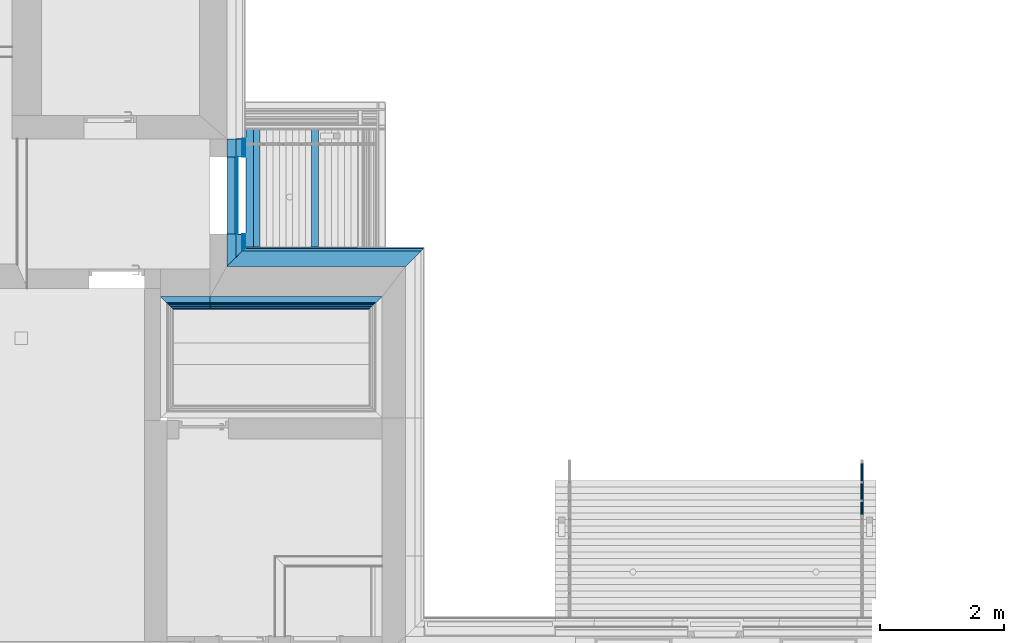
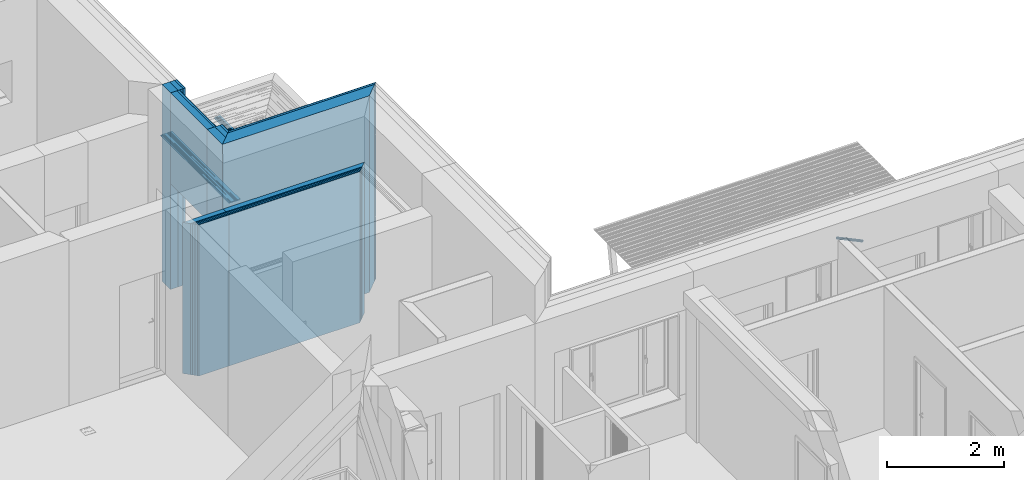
# One storey, part 36 of 418: 24 building element parts, 9 openings, 8 elements without a shape of their own.
"""IFC2X3 building model written with IfcOpenShell, lengths in millimetres."""

import ifcopenshell
import ifcopenshell.guid

model = None  # the IFC model being written
_history = None  # IfcOwnerHistory: only IFC2X3 demands one
_inside = {}  # id of a spatial element -> (the spatial element, [elements in it])
_under = {}  # id of a project, library or spatial element -> (it, [spatial elements below it])
_declared = {}  # id of a project -> (the project, [libraries it declares])
_typed = {}  # id of a type object -> (the type object, [elements of that type])
_made_of = {}  # id of a material, layer set ... -> (it, [elements and type objects made of it])


def new_model(schema):
    """Start an empty IFC model of exactly this schema.

    Asked for "IFC4X3", IfcOpenShell would pick the latest addendum, in which some entities
    have other attributes; the version numbers below select the first issue.
    IFC2X3 requires an IfcOwnerHistory on every rooted entity: one is made here for all.
    """
    global model, _history
    if schema == "IFC4X3":
        model = ifcopenshell.file(schema_version=(4, 3, 0, 0))
    else:
        model = ifcopenshell.file(schema=schema)
    _inside.clear()
    _under.clear()
    _declared.clear()
    _typed.clear()
    _made_of.clear()
    _history = None
    if model.schema == "IFC2X3":
        org = make("IfcOrganization", Name="unknown")
        user = make(
            "IfcPersonAndOrganization",
            ThePerson=make("IfcPerson", FamilyName="unknown"),
            TheOrganization=org,
        )
        app = make(
            "IfcApplication",
            ApplicationDeveloper=org,
            Version="unknown",
            ApplicationFullName="unknown",
            ApplicationIdentifier="unknown",
        )
        _history = make(
            "IfcOwnerHistory",
            OwningUser=user,
            OwningApplication=app,
            ChangeAction="ADDED",
            CreationDate=0,
        )
    return model


def make(cls, **values):
    """One entity of the class cls with the attributes given. An attribute that is None is left unset."""
    return model.create_entity(
        cls, **{name: value for name, value in values.items() if value is not None}
    )


def entity(cls, *values):
    """Any entity or typed value of the class cls, its attributes in the order of the schema. None: left unset."""
    e = model.create_entity(cls)
    for i, value in enumerate(values):
        if value is not None:
            e[i] = value
    return e


def rooted(cls, **values):
    """An entity with a GlobalId (a new one), such as an element, a storey or a relation."""
    return make(cls, GlobalId=ifcopenshell.guid.new(), OwnerHistory=_history, **values)


def si_unit(unit_type, name, prefix=None):
    """IfcSIUnit, for example si_unit("LENGTHUNIT", "METRE", prefix="MILLI")."""
    return make("IfcSIUnit", UnitType=unit_type, Prefix=prefix, Name=name)


def converted_unit(unit_type, name, factor, base, dimensions=None, offset=None):
    """IfcConversionBasedUnit, such as the inch: factor (a typed value) times the base unit."""
    return make(
        "IfcConversionBasedUnit"
        if offset is None
        else "IfcConversionBasedUnitWithOffset",
        ConversionOffset=offset,
        Dimensions=None
        if dimensions is None
        else entity("IfcDimensionalExponents", *dimensions),
        UnitType=unit_type,
        Name=name,
        ConversionFactor=make(
            "IfcMeasureWithUnit", ValueComponent=factor, UnitComponent=base
        ),
    )


def derived_unit(unit_type, elements):
    """IfcDerivedUnit: a product of units, each with its exponent."""
    return make(
        "IfcDerivedUnit",
        Elements=[
            make("IfcDerivedUnitElement", Unit=unit, Exponent=power)
            for unit, power in elements
        ],
        UnitType=unit_type,
    )


def money_unit(currency):
    """IfcMonetaryUnit."""
    return make("IfcMonetaryUnit", Currency=currency)


def assignment(units):
    """IfcUnitAssignment: the units of a project."""
    return None if units is None else make("IfcUnitAssignment", Units=units)


def point(xyz):
    """IfcCartesianPoint."""
    return None if xyz is None else make("IfcCartesianPoint", Coordinates=xyz)


def direction(xyz):
    """IfcDirection."""
    return None if xyz is None else make("IfcDirection", DirectionRatios=xyz)


def frame(location, z_axis=None, x_axis=None):
    """IfcAxis2Placement3D, a coordinate frame: its origin and axes. An axis left out is left unset."""
    return make(
        "IfcAxis2Placement3D",
        Location=point(location),
        Axis=direction(z_axis),
        RefDirection=direction(x_axis),
    )


def frame_2d(location, x_axis=None):
    """IfcAxis2Placement2D, a coordinate frame in the plane: its origin and x axis."""
    return make(
        "IfcAxis2Placement2D", Location=point(location), RefDirection=direction(x_axis)
    )


def origin_with_axes():
    """The frame at (0, 0, 0) with the z axis (0, 0, 1) and the x axis (1, 0, 0) written out."""
    return frame((0.0, 0.0, 0.0), z_axis=(0.0, 0.0, 1.0), x_axis=(1.0, 0.0, 0.0))


def origin_2d_with_axis():
    """The frame at (0, 0) in the plane with the x axis (1, 0) written out."""
    return frame_2d((0.0, 0.0), x_axis=(1.0, 0.0))


def place(relative_to, where):
    """IfcLocalPlacement: puts the frame where relative to a parent placement (None: the world)."""
    return make(
        "IfcLocalPlacement", PlacementRelTo=relative_to, RelativePlacement=where
    )


def context(
    kind, dimensions, precision=None, world=None, true_north=None, identifier=None
):
    """IfcGeometricRepresentationContext, for example the 3D "Model" context."""
    return make(
        "IfcGeometricRepresentationContext",
        ContextIdentifier=identifier,
        ContextType=kind,
        CoordinateSpaceDimension=dimensions,
        Precision=precision,
        WorldCoordinateSystem=world,
        TrueNorth=true_north,
    )


def subcontext(parent, identifier, kind, view, scale=None):
    """IfcGeometricRepresentationSubContext, for example "Body" below "Model"."""
    return make(
        "IfcGeometricRepresentationSubContext",
        ContextIdentifier=identifier,
        ContextType=kind,
        ParentContext=parent,
        TargetScale=scale,
        TargetView=view,
    )


def project(units=None, contexts=None):
    """IfcProject with its units and contexts."""
    return rooted(
        "IfcProject",
        Name="project",
        RepresentationContexts=contexts,
        UnitsInContext=assignment(units),
    )


def spatial(cls, under=None, at=None, **own):
    """A site, building, storey or space (cls), placed at a placement, below another one or the project."""
    s = rooted(cls, ObjectPlacement=at, **own)
    if under is not None:
        _under.setdefault(under.id(), (under, []))[1].append(s)
    return s


def polyline(points):
    """IfcPolyline through the points."""
    return make("IfcPolyline", Points=[point(p) for p in points])


def profile(cls, at=None, kind="AREA", **sizes):
    """A parametric profile (cls). Its sizes go by their IFC names, for example OverallWidth=200.0."""
    return make(cls, ProfileType=kind, Position=at, **sizes)


def rectangle(**sizes):
    """IfcRectangleProfileDef."""
    return profile("IfcRectangleProfileDef", **sizes)


def outline(outer, holes=None, kind="AREA"):
    """IfcArbitraryClosedProfileDef: a profile drawn as a closed curve; with holes, ...WithVoids."""
    if holes is None:
        return make("IfcArbitraryClosedProfileDef", ProfileType=kind, OuterCurve=outer)
    return make(
        "IfcArbitraryProfileDefWithVoids",
        ProfileType=kind,
        OuterCurve=outer,
        InnerCurves=holes,
    )


def extrude(swept, where, along, depth):
    """IfcExtrudedAreaSolid: the profile swept, set in the frame where, extruded along a direction by depth."""
    return make(
        "IfcExtrudedAreaSolid",
        SweptArea=swept,
        Position=where,
        ExtrudedDirection=direction(along),
        Depth=depth,
    )


def faces_of(points, faces, orient=None, outer=None):
    """IfcFace entities. A face is a list of loops; a loop is a list of indices into points, from 0.

    orient and outer hold one flag for each loop. By default every Orientation is true, the
    first loop of a face is its IfcFaceOuterBound and the others are IfcFaceBound.
    """
    made = []
    for i, loops in enumerate(faces):
        bounds = []
        for j, loop in enumerate(loops):
            is_outer = j == 0 if outer is None else outer[i][j]
            bounds.append(
                make(
                    "IfcFaceOuterBound" if is_outer else "IfcFaceBound",
                    Bound=make("IfcPolyLoop", Polygon=[points[k] for k in loop]),
                    Orientation=True if orient is None else orient[i][j],
                )
            )
        made.append(make("IfcFace", Bounds=bounds))
    return made


def faceted_brep(points, faces, orient=None, outer=None, voids=None):
    """IfcFacetedBrep: a solid bounded by flat faces; with voids (closed shells), ...WithVoids."""
    shared = [point(p) for p in points]
    hull = make("IfcClosedShell", CfsFaces=faces_of(shared, faces, orient, outer))
    if voids is None:
        return make("IfcFacetedBrep", Outer=hull)
    return make(
        "IfcFacetedBrepWithVoids",
        Outer=hull,
        Voids=[
            make(cls, CfsFaces=faces_of(shared, fs, o, b)) for cls, fs, o, b in voids
        ],
    )


def shape(context_of_items, identifier, shape_type, items):
    """IfcShapeRepresentation: the items that make up one representation, for example the "Body"."""
    return make(
        "IfcShapeRepresentation",
        ContextOfItems=context_of_items,
        RepresentationIdentifier=identifier,
        RepresentationType=shape_type,
        Items=items,
    )


def source(mapping_origin, context_of_items, identifier, shape_type, items):
    """IfcRepresentationMap: a shape defined once, which mapped items show again and again."""
    return make(
        "IfcRepresentationMap",
        MappingOrigin=mapping_origin,
        MappedRepresentation=shape(context_of_items, identifier, shape_type, items),
    )


def transform(
    local_origin,
    x_axis=None,
    y_axis=None,
    z_axis=None,
    scale=None,
    scale2=None,
    scale3=None,
    uniform=True,
):
    """IfcCartesianTransformationOperator3D, or its non-uniform kind. x_axis, y_axis, z_axis: its Axis1, 2, 3."""
    if uniform:
        return make(
            "IfcCartesianTransformationOperator3D",
            Axis1=direction(x_axis),
            Axis2=direction(y_axis),
            LocalOrigin=point(local_origin),
            Scale=scale,
            Axis3=direction(z_axis),
        )
    return make(
        "IfcCartesianTransformationOperator3DnonUniform",
        Axis1=direction(x_axis),
        Axis2=direction(y_axis),
        LocalOrigin=point(local_origin),
        Scale=scale,
        Axis3=direction(z_axis),
        Scale2=scale2,
        Scale3=scale3,
    )


def mapped(mapping_source, mapping_target):
    """IfcMappedItem: shows the shape of a source again, moved by a transform."""
    return make(
        "IfcMappedItem", MappingSource=mapping_source, MappingTarget=mapping_target
    )


def material(Name=None, Category=None):
    """IfcMaterial."""
    return make("IfcMaterial", Name=Name, Category=Category)


def made_of(thing, what):
    """Note that an element or type object is made of a material, layer set ...; save() writes the relation."""
    if what is not None:
        _made_of.setdefault(what.id(), (what, []))[1].append(thing)
    return thing


def type_object(cls, material=None, **own):
    """A type object (cls), such as IfcWallType, which elements share."""
    return made_of(rooted(cls, **own), material)


def element(
    cls,
    number,
    at=None,
    inside=None,
    cuts=None,
    type_object=None,
    material=None,
    context=None,
    identifier="Body",
    shape_type=None,
    held_by="IfcProductDefinitionShape",
    body=None,
    shapes=None,
    **own,
):
    """One element of the class cls, such as IfcWall. Its Tag is "e" and its number.

    at: its placement. inside: the storey or other place that contains it. cuts: it is an
    opening in that element (IfcRelVoidsElement). A single representation is given by context,
    identifier, shape_type and body (its items); several are given by shapes. held_by: the class
    of the entity that holds the representations. save() writes the other relations.
    """
    e = rooted(cls, Tag="e%d" % number, ObjectPlacement=at, **own)
    if body is not None:
        shapes = [shape(context, identifier, shape_type, body)]
    if shapes is not None:
        e.Representation = make(held_by, Representations=shapes)
    if inside is not None:
        _inside.setdefault(inside.id(), (inside, []))[1].append(e)
    if cuts is not None:
        rooted(
            "IfcRelVoidsElement", RelatingBuildingElement=cuts, RelatedOpeningElement=e
        )
    if type_object is not None:
        _typed.setdefault(type_object.id(), (type_object, []))[1].append(e)
    return made_of(e, material)


def aggregate(whole, parts):
    """IfcRelAggregates: a whole, such as a stair, and the parts it consists of."""
    return rooted("IfcRelAggregates", RelatingObject=whole, RelatedObjects=parts)


def save(model, path):
    """Write the relations noted so far, then the file.

    IfcRelAggregates (storeys below a building ...), IfcRelContainedInSpatialStructure (elements
    in a storey), IfcRelDefinesByType, IfcRelAssociatesMaterial and IfcRelDeclares: one each for
    every whole, place, type object, material and project.
    """
    for whole, parts in _under.values():
        aggregate(whole, parts)
    for where, things in _inside.values():
        rooted(
            "IfcRelContainedInSpatialStructure",
            RelatedElements=things,
            RelatingStructure=where,
        )
    for kind, things in _typed.values():
        rooted("IfcRelDefinesByType", RelatedObjects=things, RelatingType=kind)
    for what, things in _made_of.values():
        rooted("IfcRelAssociatesMaterial", RelatedObjects=things, RelatingMaterial=what)
    for by, libraries in _declared.values():
        rooted("IfcRelDeclares", RelatingContext=by, RelatedDefinitions=libraries)
    model.write(path)


model = new_model("IFC2X3")

# Units and contexts
model_context = context("Model", 3, precision=0.01, world=origin_with_axes(), true_north=direction((0.0, 1.0)))
body_context = subcontext(model_context, "Body", "Model", "MODEL_VIEW")
ifc_project = project(units=[si_unit("LENGTHUNIT", "METRE", prefix="MILLI"), si_unit("AREAUNIT", "SQUARE_METRE"), si_unit("VOLUMEUNIT", "CUBIC_METRE"), converted_unit("PLANEANGLEUNIT", "DEGREE", entity("IfcPlaneAngleMeasure", 0.0174532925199), si_unit("PLANEANGLEUNIT", "RADIAN"), dimensions=[0, 0, 0, 0, 0, 0, 0]), si_unit("SOLIDANGLEUNIT", "STERADIAN"), money_unit("EUR"), converted_unit("TIMEUNIT", "Year", entity("IfcTimeMeasure", 31556926.0), si_unit("TIMEUNIT", "SECOND"), dimensions=[0, 0, 1, 0, 0, 0, 0]), si_unit("MASSUNIT", "GRAM", prefix="KILO"), si_unit("THERMODYNAMICTEMPERATUREUNIT", "DEGREE_CELSIUS"), si_unit("LUMINOUSINTENSITYUNIT", "LUMEN"), si_unit("ENERGYUNIT", "JOULE", prefix="MEGA"), derived_unit("THERMALCONDUCTANCEUNIT", [(si_unit("POWERUNIT", "WATT"), 1), (si_unit("LENGTHUNIT", "METRE"), -1), (si_unit("THERMODYNAMICTEMPERATUREUNIT", "KELVIN"), -1)]), derived_unit("SPECIFICHEATCAPACITYUNIT", [(si_unit("ENERGYUNIT", "JOULE"), 1), (si_unit("MASSUNIT", "GRAM", prefix="KILO"), -1), (si_unit("THERMODYNAMICTEMPERATUREUNIT", "KELVIN"), -1)]), derived_unit("MASSDENSITYUNIT", [(si_unit("MASSUNIT", "GRAM", prefix="KILO"), 1), (si_unit("VOLUMEUNIT", "CUBIC_METRE"), -1)])], contexts=[model_context])

# Site, building, storey
site_placement = place(None, origin_with_axes())
site = spatial("IfcSite", under=ifc_project, at=site_placement, Name="Paldiski mnt 245/1, Tallinn, Harjumaa", CompositionType="COMPLEX")
building_placement = place(site_placement, origin_with_axes())
building = spatial("IfcBuilding", under=site, at=building_placement, Name="RKAS Hoone üldnimetus (kasutust iseloomustav) -> IFC Project Manager -> SOLIBRI", CompositionType="ELEMENT")
storey_placement = place(building_placement, origin_with_axes())
storey = spatial("IfcBuildingStorey", under=building, at=storey_placement, Name="Esimene korrus", CompositionType="ELEMENT", Elevation=0.0)

# Proxies, building element part
building_element_proxy_type_1 = type_object("IfcBuildingElementProxyType", Name="Railing Type", PredefinedType="NOTDEFINED")
proxy_1_placement = place(storey_placement, frame((-36811.0, 460.000000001, -500.846302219), z_axis=(0.0, 0.0, 1.0), x_axis=(1.0, 0.0, 0.0)))
proxy_1 = element("IfcBuildingElementProxy", 1, at=proxy_1_placement, inside=storey, type_object=building_element_proxy_type_1, Name="Trepipiire")
building_element_proxy_type_2 = type_object("IfcBuildingElementProxyType", Name="IfcBuildingElementProxy", PredefinedType="NOTDEFINED")
proxy_2_placement = place(proxy_1_placement, frame((0.0, 2144.92080789, 944.098300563), z_axis=(0.0, 0.0, 1.0), x_axis=(1.0, 0.0, 0.0)))
proxy_2 = element("IfcBuildingElementProxy", 2, at=proxy_2_placement, type_object=building_element_proxy_type_2, Name="ÜL PIIRE - 001")
aggregate(proxy_1, [proxy_2])
ifc_material_1 = material(Name="RAL7016")
shared_shape = source(origin_with_axes(), body_context, "Body", "Brep", [
    faceted_brep([(20.1885589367, 36.5444606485, 948.101991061), (20.5, 38.2216041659, 951.241939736), (20.5, 887.611065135, 497.556807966), (20.1885589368, 885.812724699, 494.481594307), (24.6201938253, 36.1763071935, 947.412734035), (25.0, 38.2216041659, 951.241939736), (24.6201938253, 40.2669011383, 955.071145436), (23.4923155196, 42.2500527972, 958.78400266), (21.6506350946, 44.1108020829, 962.267698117), (19.151111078, 45.79261107, 965.416381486), (16.0696902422, 47.2443788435, 968.134381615), (12.5, 48.4219941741, 970.339113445), (8.55050358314, 49.2896758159, 971.963587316), (4.34120444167, 49.8210597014, 972.95844441), (0.0, 50.0, 973.293456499), (-4.34120444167, 49.8210597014, 972.95844441), (-8.55050358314, 49.2896758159, 971.963587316), (-12.5, 48.4219941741, 970.339113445), (-16.0696902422, 47.2443788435, 968.134381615), (-19.151111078, 45.79261107, 965.416381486), (-21.6506350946, 44.1108020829, 962.267698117), (-23.4923155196, 42.2500527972, 958.78400266), (-24.6201938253, 40.2669011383, 955.071145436), (-25.0, 38.2216041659, 951.241939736), (-24.6201938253, 36.1763071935, 947.412734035), (-23.4923155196, 34.1931555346, 943.699876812), (-21.6506350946, 32.3324062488, 940.216181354), (-19.151111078, 30.6505972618, 937.067497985), (-16.0696902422, 29.1988294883, 934.349497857), (-12.5, 28.0212141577, 932.144766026), (-8.55050358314, 27.1535325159, 930.520292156), (-4.34120444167, 26.6221486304, 929.525435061), (0.0, 26.4432083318, 929.190422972), (4.34120444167, 26.6221486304, 929.525435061), (8.55050358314, 27.1535325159, 930.520292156), (12.5, 28.0212141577, 932.144766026), (16.0696902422, 29.1988294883, 934.349497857), (19.151111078, 30.6505972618, 937.067497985), (21.6506350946, 32.3324062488, 940.216181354), (23.4923155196, 34.1931555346, 943.699876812), (20.1885589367, 39.8987476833, 954.38188841), (19.2636987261, 34.9182762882, 945.057448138), (17.7535207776, 33.3924618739, 942.200817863), (15.7039110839, 32.0133785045, 939.6188975), (13.1771459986, 30.8229289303, 937.390137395), (10.25, 29.8572843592, 935.582257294), (7.01141293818, 29.1457854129, 934.25018872), (3.55978764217, 28.7100506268, 933.434405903), (0.0, 28.5633195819, 933.159695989), (-3.55978764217, 28.7100506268, 933.434405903), (-7.01141293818, 29.1457854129, 934.25018872), (-10.25, 29.8572843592, 935.582257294), (-13.1771459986, 30.8229289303, 937.390137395), (-15.7039110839, 32.0133785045, 939.6188975), (-17.7535207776, 33.3924618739, 942.200817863), (-19.2636987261, 34.9182762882, 945.057448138), (-20.1885589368, 36.5444606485, 948.101991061), (-20.5, 38.2216041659, 951.241939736), (-20.1885589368, 39.8987476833, 954.38188841), (-19.2636987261, 41.5249320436, 957.426431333), (-17.7535207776, 43.0507464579, 960.283061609), (-15.7039110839, 44.4298298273, 962.864981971), (-13.1771459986, 45.6202794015, 965.093742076), (-10.25, 46.5859239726, 966.901622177), (-7.01141293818, 47.2974229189, 968.233690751), (-3.55978764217, 47.733157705, 969.049473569), (0.0, 47.8798887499, 969.324183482), (3.55978764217, 47.733157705, 969.049473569), (7.01141293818, 47.2974229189, 968.233690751), (10.25, 46.5859239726, 966.901622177), (13.1771459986, 45.6202794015, 965.093742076), (15.7039110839, 44.4298298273, 962.864981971), (17.7535207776, 43.0507464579, 960.283061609), (19.2636987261, 41.5249320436, 957.426431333), (20.1885589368, 889.409405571, 500.632021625), (-21.6506350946, 881.296290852, 486.758363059), (-23.4923155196, 883.291505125, 490.170236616), (-24.6201938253, 885.417967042, 493.806547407), (-25.0, 887.611065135, 497.556807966), (-24.6201938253, 889.804163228, 501.307068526), (-23.4923155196, 891.930625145, 504.943379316), (-21.6506350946, 893.925839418, 508.355252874), (-19.1511110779, 895.729182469, 511.439021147), (-16.0696902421, 897.285860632, 514.100985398), (-12.5, 898.548575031, 516.260263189), (-8.55050358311, 899.478958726, 517.851245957), (-4.34120444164, 900.048742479, 518.825592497), (0.0, 900.2406137, 519.153697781), (4.3412044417, 900.048742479, 518.825592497), (8.55050358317, 899.478958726, 517.851245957), (12.5, 898.548575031, 516.260263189), (16.0696902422, 897.285860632, 514.100985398), (19.151111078, 895.729182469, 511.439021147), (21.6506350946, 893.925839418, 508.355252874), (23.4923155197, 891.930625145, 504.943379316), (24.6201938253, 889.804163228, 501.307068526), (25.0, 887.611065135, 497.556807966), (24.6201938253, 885.417967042, 493.806547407), (23.4923155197, 883.291505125, 490.170236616), (21.6506350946, 881.296290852, 486.758363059), (19.151111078, 879.492947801, 483.674594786), (16.0696902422, 877.936269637, 481.012630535), (12.5, 876.673555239, 478.853352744), (8.55050358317, 875.743171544, 477.262369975), (4.3412044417, 875.173387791, 476.288023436), (0.0, 874.98151657, 475.959918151), (-4.34120444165, 875.173387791, 476.288023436), (-8.55050358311, 875.743171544, 477.262369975), (-12.5, 876.673555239, 478.853352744), (-16.0696902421, 877.936269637, 481.012630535), (-19.1511110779, 879.492947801, 483.674594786), (-17.7535207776, 892.789180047, 506.41153279), (-19.2636987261, 891.153104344, 503.613796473), (-20.1885589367, 889.409405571, 500.632021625), (-20.5, 887.611065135, 497.556807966), (-20.1885589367, 885.812724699, 494.481594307), (-19.2636987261, 884.069025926, 491.499819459), (-17.7535207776, 882.432950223, 488.702083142), (-15.7039110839, 880.954208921, 486.173393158), (-13.1771459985, 879.677732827, 483.990582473), (-10.25, 878.64230702, 482.219974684), (-7.01141293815, 877.879392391, 480.915368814), (-3.55978764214, 877.412169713, 480.116404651), (0.0, 877.254835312, 479.847358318), (3.5597876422, 877.412169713, 480.116404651), (7.0114129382, 877.879392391, 480.915368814), (10.25, 878.64230702, 482.219974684), (13.1771459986, 879.677732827, 483.990582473), (15.703911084, 880.954208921, 486.173393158), (17.7535207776, 882.432950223, 488.702083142), (19.2636987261, 884.069025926, 491.499819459), (19.2636987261, 891.153104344, 503.613796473), (17.7535207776, 892.789180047, 506.41153279), (15.703911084, 894.267921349, 508.940222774), (13.1771459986, 895.544397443, 511.12303346), (10.25, 896.57982325, 512.893641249), (7.0114129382, 897.342737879, 514.198247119), (3.5597876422, 897.809960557, 514.997211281), (0.0, 897.967294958, 515.266257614), (-3.55978764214, 897.809960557, 514.997211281), (-7.01141293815, 897.342737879, 514.198247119), (-10.25, 896.57982325, 512.893641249), (-13.1771459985, 895.544397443, 511.12303346), (-15.7039110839, 894.267921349, 508.940222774)], [[[0, 1, 2, 3]], [[4, 5, 6, 7, 8, 9, 10, 11, 12, 13, 14, 15, 16, 17, 18, 19, 20, 21, 22, 23, 24, 25, 26, 27, 28, 29, 30, 31, 32, 33, 34, 35, 36, 37, 38, 39], [40, 1, 0, 41, 42, 43, 44, 45, 46, 47, 48, 49, 50, 51, 52, 53, 54, 55, 56, 57, 58, 59, 60, 61, 62, 63, 64, 65, 66, 67, 68, 69, 70, 71, 72, 73]], [[1, 40, 74, 2]], [[75, 76, 77, 78, 79, 80, 81, 82, 83, 84, 85, 86, 87, 88, 89, 90, 91, 92, 93, 94, 95, 96, 97, 98, 99, 100, 101, 102, 103, 104, 105, 106, 107, 108, 109, 110], [111, 112, 113, 114, 115, 116, 117, 118, 119, 120, 121, 122, 123, 124, 125, 126, 127, 128, 129, 130, 3, 2, 74, 131, 132, 133, 134, 135, 136, 137, 138, 139, 140, 141, 142, 143]], [[41, 0, 3, 130]], [[5, 4, 97, 96]], [[6, 5, 96, 95]], [[7, 6, 95, 94]], [[8, 7, 94, 93]], [[9, 8, 93, 92]], [[10, 9, 92, 91]], [[11, 10, 91, 90]], [[12, 11, 90, 89]], [[13, 12, 89, 88]], [[14, 13, 88, 87]], [[15, 14, 87, 86]], [[16, 15, 86, 85]], [[17, 16, 85, 84]], [[18, 17, 84, 83]], [[19, 18, 83, 82]], [[20, 19, 82, 81]], [[21, 20, 81, 80]], [[22, 21, 80, 79]], [[23, 22, 79, 78]], [[24, 23, 78, 77]], [[25, 24, 77, 76]], [[26, 25, 76, 75]], [[27, 26, 75, 110]], [[28, 27, 110, 109]], [[29, 28, 109, 108]], [[30, 29, 108, 107]], [[31, 30, 107, 106]], [[32, 31, 106, 105]], [[33, 32, 105, 104]], [[34, 33, 104, 103]], [[35, 34, 103, 102]], [[36, 35, 102, 101]], [[37, 36, 101, 100]], [[38, 37, 100, 99]], [[39, 38, 99, 98]], [[4, 39, 98, 97]], [[42, 41, 130, 129]], [[43, 42, 129, 128]], [[44, 43, 128, 127]], [[45, 44, 127, 126]], [[46, 45, 126, 125]], [[47, 46, 125, 124]], [[48, 47, 124, 123]], [[49, 48, 123, 122]], [[50, 49, 122, 121]], [[51, 50, 121, 120]], [[52, 51, 120, 119]], [[53, 52, 119, 118]], [[54, 53, 118, 117]], [[55, 54, 117, 116]], [[56, 55, 116, 115]], [[57, 56, 115, 114]], [[58, 57, 114, 113]], [[59, 58, 113, 112]], [[60, 59, 112, 111]], [[61, 60, 111, 143]], [[62, 61, 143, 142]], [[63, 62, 142, 141]], [[64, 63, 141, 140]], [[65, 64, 140, 139]], [[66, 65, 139, 138]], [[67, 66, 138, 137]], [[68, 67, 137, 136]], [[69, 68, 136, 135]], [[70, 69, 135, 134]], [[71, 70, 134, 133]], [[72, 71, 133, 132]], [[73, 72, 132, 131]], [[40, 73, 131, 74]]]),
])
building_element_part_1_placement = place(proxy_2_placement, origin_with_axes())
building_element_part_1 = element("IfcBuildingElementPart", 3, at=building_element_part_1_placement, material=ifc_material_1, Name="RAL7016", context=body_context, shape_type="MappedRepresentation", body=[
    mapped(shared_shape, transform((0.0, -475.12030685, -463.251998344))),
])
aggregate(proxy_2, [building_element_part_1])

# Wall, building element parts
wall_type_1 = type_object("IfcWallType", Name="VS-07 sisekihid 207", PredefinedType="NOTDEFINED")
wall_1_placement = place(storey_placement, frame((-44767.5504586, 5493.0, 0.0), z_axis=(0.0, 0.0, 1.0), x_axis=(-1.0, 0.0, 0.0)))
wall_1 = element("IfcWall", 4, at=wall_1_placement, inside=storey, type_object=wall_type_1, Name="VS-07")
ifc_material_2 = material(Name="Isover Premium 33")
building_element_part_2_placement = place(wall_1_placement, origin_with_axes())
building_element_part_2 = element("IfcBuildingElementPart", 5, at=building_element_part_2_placement, material=ifc_material_2, Name="Isover Premium 33", context=body_context, shape_type="SweptSolid", body=[
    extrude(outline(polyline([(-207.0, -207.0), (2572.44954137, -207.0), (2572.44954137, -107.0), (-107.0, -107.0), (-207.0, -207.0)])), origin_with_axes(), (0.0, 0.0, 1.0), 3141.80696097),
])
ifc_material_3 = material(Name="Isover Sauna")
building_element_part_3_placement = place(wall_1_placement, origin_with_axes())
building_element_part_3 = element("IfcBuildingElementPart", 6, at=building_element_part_3_placement, material=ifc_material_3, Name="Isover Sauna", context=body_context, shape_type="SweptSolid", body=[
    extrude(outline(polyline([(-107.0, -107.0), (2572.44954137, -107.0), (2572.44954137, -82.0), (-82.0, -82.0), (-107.0, -107.0)])), origin_with_axes(), (0.0, 0.0, 1.0), 3141.80696097),
])
ifc_material_4 = material(Name="Õhkvahe/horisontpuitroov")
building_element_part_4_placement = place(wall_1_placement, origin_with_axes())
building_element_part_4 = element("IfcBuildingElementPart", 7, at=building_element_part_4_placement, material=ifc_material_4, Name="Õhkvahe/horisontpuitroov", context=body_context, shape_type="SweptSolid", body=[
    extrude(outline(polyline([(-82.0, -82.0), (2572.44954137, -82.0), (2572.44954137, -50.0), (-50.0, -50.0), (-82.0, -82.0)])), origin_with_axes(), (0.0, 0.0, 1.0), 3141.80696097),
])
ifc_material_5 = material(Name="Õhkvahe/vertpuitroov")
building_element_part_5_placement = place(wall_1_placement, origin_with_axes())
building_element_part_5 = element("IfcBuildingElementPart", 8, at=building_element_part_5_placement, material=ifc_material_5, Name="Õhkvahe/vertpuitroov", context=body_context, shape_type="SweptSolid", body=[
    extrude(outline(polyline([(-50.0, -50.0), (2572.44954137, -50.0), (2572.44954137, -18.0), (-18.0, -18.0), (-50.0, -50.0)])), origin_with_axes(), (0.0, 0.0, 1.0), 3141.80696097),
])
ifc_material_6 = material(Name="Sauna puitlaudis")
building_element_part_6_placement = place(wall_1_placement, origin_with_axes())
building_element_part_6 = element("IfcBuildingElementPart", 9, at=building_element_part_6_placement, material=ifc_material_6, Name="Sauna puitlaudis", context=body_context, shape_type="SweptSolid", body=[
    extrude(outline(polyline([(-18.0, -18.0), (2572.44954137, -18.0), (2572.44954137, 0.0), (0.0, 0.0), (-18.0, -18.0)])), origin_with_axes(), (0.0, 0.0, 1.0), 3141.80696097),
])
aggregate(wall_1, [building_element_part_2, building_element_part_3, building_element_part_4, building_element_part_5, building_element_part_6])

# Wall, opening, building element parts
wall_type_2 = type_object("IfcWallType", Name="VS-03.1B_uued_kihid 180", PredefinedType="NOTDEFINED")
wall_2_placement = place(storey_placement, frame((-47070.0, 7959.828725, 2200.0), z_axis=(0.0, 0.0, 1.0), x_axis=(-6.29014497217e-09, -1.0, 0.0)))
wall_2 = element("IfcWall", 10, at=wall_2_placement, inside=storey, type_object=wall_type_2, Name="VS-03.1")
opening_1_placement = place(wall_2_placement, frame((625.000001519, 0.0, 790.0), z_axis=(0.0, 0.0, 1.0), x_axis=(1.0, 0.0, 0.0)))
element("IfcOpeningElement", 11, at=opening_1_placement, cuts=wall_2, Name="Cembrit fassaadiplaadi vuuk", context=body_context, shape_type="SweptSolid", body=[
    extrude(outline(polyline([(-625.000001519, 0.0), (625.000001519, 0.0), (625.000001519, 8.0), (-625.000001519, 8.0), (-625.000001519, 0.0)])), frame((-1.08190523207e-06, 172.000003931, 0.0), z_axis=(6.29014497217e-09, -1.0, 0.0), x_axis=(1.0, 6.29014478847e-09, 0.0)), (0.0, 0.0, -1.0), 188.0),
])
ifc_material_7 = material(Name="SV-05_Plaat - Sein")
building_element_part_7_placement = place(wall_2_placement, origin_with_axes())
building_element_part_7 = element("IfcBuildingElementPart", 12, at=building_element_part_7_placement, material=ifc_material_7, Name="SV-05_Plaat - Sein", context=body_context, shape_type="SweptSolid", body=[
    extrude(outline(polyline([(0.0, 172.0), (1249.99999326, 172.0), (1249.99999326, 180.0), (0.0, 180.0), (0.0, 172.0)])), origin_with_axes(), (0.0, 0.0, 1.0), 1890.0),
])
ifc_material_8 = material(Name="VKR-06_Õhkvahe")
building_element_part_8_placement = place(wall_2_placement, origin_with_axes())
building_element_part_8 = element("IfcBuildingElementPart", 13, at=building_element_part_8_placement, material=ifc_material_8, Name="VKR-06_Õhkvahe", context=body_context, shape_type="SweptSolid", body=[
    extrude(outline(polyline([(0.0, 130.0), (1249.99999326, 130.0), (1249.99999326, 172.0), (0.0, 172.0), (0.0, 130.0)])), origin_with_axes(), (0.0, 0.0, 1.0), 1890.0),
])
ifc_material_9 = material(Name="Kingspan Kooltherm")
building_element_part_9_placement = place(wall_2_placement, origin_with_axes())
building_element_part_9 = element("IfcBuildingElementPart", 14, at=building_element_part_9_placement, material=ifc_material_9, Name="Kingspan Kooltherm", context=body_context, shape_type="SweptSolid", body=[
    extrude(outline(polyline([(0.0, 0.0), (1249.99999326, 0.0), (1249.99999326, 130.0), (0.0, 130.0), (0.0, 0.0)])), origin_with_axes(), (0.0, 0.0, 1.0), 1890.0),
])
aggregate(wall_2, [building_element_part_7, building_element_part_8, building_element_part_9])

# Wall, openings, building element parts
wall_type_3 = type_object("IfcWallType", Name="VS-03L_uued_kihid 300", PredefinedType="NOTDEFINED")
wall_3_placement = place(storey_placement, frame((-47070.0, 6189.82872435, 0.0), z_axis=(0.0, 0.0, 1.0), x_axis=(0.0, 1.0, 0.0)))
wall_3 = element("IfcWall", 15, at=wall_3_placement, inside=storey, type_object=wall_type_3, Name="VS-03")
opening_2_placement = place(wall_3_placement, frame((1370.08563782, 0.0, 2990.0), z_axis=(0.0, 0.0, 1.0), x_axis=(1.0, 0.0, 0.0)))
element("IfcOpeningElement", 16, at=opening_2_placement, cuts=wall_3, Name="Cembrit fassaadiplaadi vuuk", context=body_context, shape_type="SweptSolid", body=[
    extrude(outline(polyline([(-1070.08563782, 0.0), (1070.08563782, 0.0), (1070.08563782, 8.0), (-1070.08563782, 8.0), (-1070.08563782, 0.0)])), frame((0.0, -292.0, 0.0), z_axis=(0.0, -1.0, 0.0), x_axis=(1.0, 0.0, 0.0)), (0.0, 0.0, 1.0), 308.0),
])
opening_3_placement = place(wall_3_placement, frame((1370.08563782, 0.0, 1298.0), z_axis=(0.0, 0.0, 1.0), x_axis=(1.0, 0.0, 0.0)))
element("IfcOpeningElement", 17, at=opening_3_placement, cuts=wall_3, Name="Cembrit fassaadiplaadi vuuk", context=body_context, shape_type="SweptSolid", body=[
    extrude(outline(polyline([(-1070.08563782, 0.0), (1070.08563782, 0.0), (1070.08563782, 8.0), (-1070.08563782, 8.0), (-1070.08563782, 0.0)])), frame((0.0, -292.0, 0.0), z_axis=(0.0, -1.0, 0.0), x_axis=(1.0, 0.0, 0.0)), (0.0, 0.0, 1.0), 308.0),
])
opening_4_placement = place(wall_3_placement, frame((1144.99998843, 0.0, 0.0), z_axis=(0.0, 0.0, 1.0), x_axis=(1.0, 0.0, 0.0)))
element("IfcOpeningElement", 18, at=opening_4_placement, cuts=wall_3, Name="VU-03v", context=body_context, shape_type="SweptSolid", body=[
    extrude(rectangle(XDim=1250.0, YDim=2200.0, at=origin_2d_with_axis()), frame((0.0, -300.0, 1100.0), z_axis=(0.0, 1.0, 0.0), x_axis=(-1.0, 0.0, 0.0)), (0.0, 0.0, 1.0), 900.0),
])
opening_5_placement = place(wall_3_placement, frame((-6189.82872435, -47070.0, 0.0), z_axis=(0.0, 0.0, 1.0), x_axis=(0.0, -1.0, 0.0)))
element("IfcOpeningElement", 19, at=opening_5_placement, cuts=wall_3, Name="AVA", ObjectType="OPENING", context=body_context, shape_type="SweptSolid", body=[
    extrude(rectangle(XDim=1250.0, YDim=4090.0, at=origin_2d_with_axis()), frame((-47070.0, 7334.828725, 2045.0), z_axis=(1.0, 0.0, 0.0), x_axis=(0.0, 1.0, 0.0)), (0.0, 0.0, 1.0), 600.0),
])
ifc_material_10 = material(Name="Cembrit_C020")
building_element_part_10_placement = place(wall_3_placement, origin_with_axes())
building_element_part_10 = element("IfcBuildingElementPart", 20, at=building_element_part_10_placement, material=ifc_material_10, Name="Cembrit_C020", context=body_context, shape_type="SweptSolid", body=[
    extrude(outline(polyline([(300.0, -300.0), (2060.17127565, -300.0), (2060.17127565, -292.0), (292.0, -292.0), (300.0, -300.0)])), origin_with_axes(), (0.0, 0.0, 1.0), 4090.0),
])
building_element_part_11_placement = place(wall_3_placement, origin_with_axes())
building_element_part_11 = element("IfcBuildingElementPart", 21, at=building_element_part_11_placement, material=ifc_material_8, Name="VKR-06_Õhkvahe", context=body_context, shape_type="SweptSolid", body=[
    extrude(outline(polyline([(292.0, -292.0), (2060.17127565, -292.0), (2060.17127565, -250.0), (250.0, -250.0), (292.0, -292.0)])), origin_with_axes(), (0.0, 0.0, 1.0), 4090.0),
])
building_element_part_12_placement = place(wall_3_placement, origin_with_axes())
building_element_part_12 = element("IfcBuildingElementPart", 22, at=building_element_part_12_placement, material=ifc_material_9, Name="Kingspan Kooltherm", context=body_context, shape_type="SweptSolid", body=[
    extrude(outline(polyline([(250.0, -250.0), (2060.17127565, -250.0), (2060.17127565, -150.0), (150.0, -150.0), (250.0, -250.0)])), origin_with_axes(), (0.0, 0.0, 1.0), 4090.0),
])
building_element_part_13_placement = place(wall_3_placement, origin_with_axes())
building_element_part_13 = element("IfcBuildingElementPart", 23, at=building_element_part_13_placement, material=ifc_material_9, Name="Kingspan Kooltherm", context=body_context, shape_type="SweptSolid", body=[
    extrude(outline(polyline([(150.0, -150.0), (2060.17127565, -150.0), (2060.17127565, 0.0), (0.0, 0.0), (150.0, -150.0)])), origin_with_axes(), (0.0, 0.0, 1.0), 4090.0),
])
aggregate(wall_3, [building_element_part_10, building_element_part_11, building_element_part_12, building_element_part_13])

# Proxy, building element parts
building_element_proxy_type_3 = type_object("IfcBuildingElementProxyType", Name="Varikatus_02_03_lagi laudis_02_03 1800 x 21", PredefinedType="NOTDEFINED")
proxy_3_placement = place(storey_placement, frame((-44959.7745692, 8833.7200537, 2580.99999904), z_axis=(0.0, 0.0, 1.0), x_axis=(0.0, -1.0, 0.0)))
proxy_3 = element("IfcBuildingElementProxy", 24, at=proxy_3_placement, inside=storey, type_object=building_element_proxy_type_3, Name="Varikatus")
ifc_material_11 = material(Name="Laudis 5072 Honka 45 horisontaalne raastas")
building_element_part_14_placement = place(proxy_3_placement, origin_with_axes())
building_element_part_14 = element("IfcBuildingElementPart", 25, at=building_element_part_14_placement, material=ifc_material_11, Name="Laudis 5072 Honka 45 horisontaalne raastas", context=body_context, shape_type="SweptSolid", body=[
    extrude(outline(polyline([(650.162258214, -20.9999999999), (750.162257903, -20.9999999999), (750.162258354, -11.0000004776), (730.162258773, -10.999999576), (730.162257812, 1.61841207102e-07), (715.586070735, 5.23587839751e-07), (715.586070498, -6.99999898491), (709.945402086, -6.9999996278), (709.9454011, 8.83376927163e-07), (695.116908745, -3.56279450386e-08), (695.116908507, -6.99999954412), (688.989967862, -6.99999997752), (688.989968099, -4.69026151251e-07), (674.050850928, -3.47777806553e-07), (674.050850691, -6.99999985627), (667.688353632, -6.99999955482), (667.688352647, 9.56350110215e-07), (630.162258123, 0.0), (630.162257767, -10.4999992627), (650.16225835, -10.499998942), (650.162258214, -20.9999999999)])), frame((0.0, 0.0, 0.0), z_axis=(-1.0, 0.0, 0.0), x_axis=(0.0, -1.0, 0.0)), (0.0, 0.0, -1.0), 2329.49919644),
])
building_element_part_15_placement = place(proxy_3_placement, origin_with_axes())
building_element_part_15 = element("IfcBuildingElementPart", 26, at=building_element_part_15_placement, material=ifc_material_11, Name="Laudis 5072 Honka 45 horisontaalne raastas", context=body_context, shape_type="SweptSolid", body=[
    extrude(outline(polyline([(1594.9438626, -20.9999999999), (1694.94386229, -20.9999999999), (1694.94386274, -11.0000004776), (1674.94386316, -10.999999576), (1674.9438622, 1.61842983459e-07), (1660.36767512, 5.23587395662e-07), (1660.36767489, -6.99999898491), (1654.72700647, -6.9999996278), (1654.72700549, 8.8337337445e-07), (1639.89851313, -3.56310536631e-08), (1639.8985129, -6.99999954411), (1633.77157225, -6.99999997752), (1633.77157249, -4.69027483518e-07), (1618.83245532, -3.47778250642e-07), (1618.83245508, -6.99999985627), (1612.46995802, -6.99999955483), (1612.46995704, 9.56352330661e-07), (1574.94386251, 0.0), (1574.94386216, -10.4999992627), (1594.94386274, -10.499998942), (1594.9438626, -20.9999999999)])), frame((0.0, 0.0, 0.0), z_axis=(-1.0, 0.0, 0.0), x_axis=(0.0, -1.0, 0.0)), (0.0, 0.0, -1.0), 2329.49919644),
])
building_element_part_16_placement = place(proxy_3_placement, origin_with_axes())
building_element_part_16 = element("IfcBuildingElementPart", 27, at=building_element_part_16_placement, material=ifc_material_11, Name="Laudis 5072 Honka 45 horisontaalne raastas", context=body_context, shape_type="SweptSolid", body=[
    extrude(outline(polyline([(1699.9438626, -20.9999999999), (1799.94386229, -20.9999999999), (1799.94386274, -11.0000004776), (1779.94386316, -10.999999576), (1779.9438622, 1.61841207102e-07), (1765.36767512, 5.23587839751e-07), (1765.36767489, -6.99999898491), (1759.72700647, -6.9999996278), (1759.72700549, 8.83376927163e-07), (1744.89851313, -3.56279450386e-08), (1744.8985129, -6.99999954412), (1738.77157225, -6.99999997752), (1738.77157249, -4.69026151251e-07), (1723.83245532, -3.47777806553e-07), (1723.83245508, -6.99999985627), (1717.46995802, -6.99999955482), (1717.46995704, 9.56350110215e-07), (1679.94386251, 0.0), (1679.94386216, -10.4999992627), (1699.94386274, -10.499998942), (1699.9438626, -20.9999999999)])), frame((0.0, 0.0, 0.0), z_axis=(-1.0, 0.0, 0.0), x_axis=(0.0, -1.0, 0.0)), (0.0, 0.0, -1.0), 2329.49919644),
])
aggregate(proxy_3, [building_element_part_14, building_element_part_15, building_element_part_16])

# Wall, building element parts
wall_4_placement = place(storey_placement, frame((-47340.0, 5493.0, 0.0), z_axis=(0.0, 0.0, 1.0), x_axis=(-1.0, 0.0, 0.0)))
wall_4 = element("IfcWall", 28, at=wall_4_placement, inside=storey, type_object=wall_type_1, Name="SS-12")
building_element_part_17_placement = place(wall_4_placement, origin_with_axes())
building_element_part_17 = element("IfcBuildingElementPart", 29, at=building_element_part_17_placement, material=ifc_material_2, Name="Isover Premium 33", context=body_context, shape_type="SweptSolid", body=[
    extrude(outline(polyline([(0.0, -207.0), (800.0, -207.0), (700.0, -107.0), (0.0, -107.0), (0.0, -207.0)])), origin_with_axes(), (0.0, 0.0, 1.0), 3141.80696097),
])
building_element_part_18_placement = place(wall_4_placement, origin_with_axes())
building_element_part_18 = element("IfcBuildingElementPart", 30, at=building_element_part_18_placement, material=ifc_material_3, Name="Isover Sauna", context=body_context, shape_type="SweptSolid", body=[
    extrude(outline(polyline([(0.0, -107.0), (700.0, -107.0), (675.0, -82.0), (0.0, -82.0), (0.0, -107.0)])), origin_with_axes(), (0.0, 0.0, 1.0), 3141.80696097),
])
building_element_part_19_placement = place(wall_4_placement, origin_with_axes())
building_element_part_19 = element("IfcBuildingElementPart", 31, at=building_element_part_19_placement, material=ifc_material_4, Name="Õhkvahe/horisontpuitroov", context=body_context, shape_type="SweptSolid", body=[
    extrude(outline(polyline([(0.0, -82.0), (675.0, -82.0), (643.0, -50.0), (0.0, -50.0), (0.0, -82.0)])), origin_with_axes(), (0.0, 0.0, 1.0), 3141.80696097),
])
building_element_part_20_placement = place(wall_4_placement, origin_with_axes())
building_element_part_20 = element("IfcBuildingElementPart", 32, at=building_element_part_20_placement, material=ifc_material_5, Name="Õhkvahe/vertpuitroov", context=body_context, shape_type="SweptSolid", body=[
    extrude(outline(polyline([(0.0, -50.0), (643.0, -50.0), (611.0, -18.0), (0.0, -18.0), (0.0, -50.0)])), origin_with_axes(), (0.0, 0.0, 1.0), 3141.80696097),
])
building_element_part_21_placement = place(wall_4_placement, origin_with_axes())
building_element_part_21 = element("IfcBuildingElementPart", 33, at=building_element_part_21_placement, material=ifc_material_6, Name="Sauna puitlaudis", context=body_context, shape_type="SweptSolid", body=[
    extrude(outline(polyline([(0.0, -18.0), (611.0, -18.0), (593.0, 0.0), (0.0, 0.0), (0.0, -18.0)])), origin_with_axes(), (0.0, 0.0, 1.0), 3141.80696097),
])
aggregate(wall_4, [building_element_part_17, building_element_part_18, building_element_part_19, building_element_part_20, building_element_part_21])

# Wall, openings, building element parts
wall_type_4 = type_object("IfcWallType", Name="VS-07B_uued_kihid 300", PredefinedType="NOTDEFINED")
wall_5_placement = place(storey_placement, frame((-44180.5504586, 6189.82872435, 0.0), z_axis=(0.0, 0.0, 1.0), x_axis=(-1.0, 0.0, 0.0)))
wall_5 = element("IfcWall", 34, at=wall_5_placement, inside=storey, type_object=wall_type_4, Name="VS-07")
opening_6_placement = place(wall_5_placement, frame((1144.72477068, 0.0, 2990.0), z_axis=(0.0, 0.0, 1.0), x_axis=(1.0, 0.0, 0.0)))
element("IfcOpeningElement", 35, at=opening_6_placement, cuts=wall_5, Name="Cembrit fassaadiplaadi vuuk", context=body_context, shape_type="SweptSolid", body=[
    extrude(outline(polyline([(-1444.72477068, 0.0), (1444.72477068, 0.0), (1444.72477068, 8.0), (-1444.72477068, 8.0), (-1444.72477068, 0.0)])), frame((0.0, -292.0, 0.0), z_axis=(0.0, 1.0, 0.0), x_axis=(-1.0, 0.0, 0.0)), (0.0, 0.0, -1.0), 308.0),
])
opening_7_placement = place(wall_5_placement, frame((979.999999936, 0.0, 0.0), z_axis=(0.0, 0.0, 1.0), x_axis=(1.0, 0.0, 0.0)))
element("IfcOpeningElement", 36, at=opening_7_placement, cuts=wall_5, Name="Cembrit fassaadiplaadi vuuk", context=body_context, shape_type="SweptSolid", body=[
    extrude(outline(polyline([(-3.99999999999, 0.0), (4.0, 0.0), (4.0, 4090.0), (-3.99999999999, 4090.0), (-3.99999999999, 0.0)])), frame((0.0, -292.0, 0.0), z_axis=(0.0, 1.0, 0.0), x_axis=(-1.0, 0.0, 0.0)), (0.0, 0.0, -1.0), 308.0),
])
opening_8_placement = place(wall_5_placement, frame((2179.99999994, 0.0, 0.0), z_axis=(0.0, 0.0, 1.0), x_axis=(1.0, 0.0, 0.0)))
element("IfcOpeningElement", 37, at=opening_8_placement, cuts=wall_5, Name="Cembrit fassaadiplaadi vuuk", context=body_context, shape_type="SweptSolid", body=[
    extrude(outline(polyline([(-3.99999999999, 0.0), (4.0, 0.0), (4.0, 4090.0), (-3.99999999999, 4090.0), (-3.99999999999, 0.0)])), frame((0.0, -292.0, 0.0), z_axis=(0.0, 1.0, 0.0), x_axis=(-1.0, 0.0, 0.0)), (0.0, 0.0, -1.0), 308.0),
])
opening_9_placement = place(wall_5_placement, frame((1144.72477068, 0.0, 1298.0), z_axis=(0.0, 0.0, 1.0), x_axis=(1.0, 0.0, 0.0)))
element("IfcOpeningElement", 38, at=opening_9_placement, cuts=wall_5, Name="Cembrit fassaadiplaadi vuuk", context=body_context, shape_type="SweptSolid", body=[
    extrude(outline(polyline([(-1444.72477068, 0.0), (1444.72477068, 0.0), (1444.72477068, 8.0), (-1444.72477068, 8.0), (-1444.72477068, 0.0)])), frame((0.0, -292.0, 0.0), z_axis=(0.0, 1.0, 0.0), x_axis=(-1.0, 0.0, 0.0)), (0.0, 0.0, -1.0), 308.0),
])
ifc_material_12 = material(Name="Cembrit_C040")
building_element_part_22_placement = place(wall_5_placement, origin_with_axes())
building_element_part_22 = element("IfcBuildingElementPart", 39, at=building_element_part_22_placement, material=ifc_material_12, Name="Cembrit_C040", context=body_context, shape_type="SweptSolid", body=[
    extrude(outline(polyline([(-300.0, -300.0), (2589.44954137, -300.0), (2597.44954137, -292.0), (-292.0, -292.0), (-300.0, -300.0)])), origin_with_axes(), (0.0, 0.0, 1.0), 4090.0),
])
building_element_part_23_placement = place(wall_5_placement, origin_with_axes())
building_element_part_23 = element("IfcBuildingElementPart", 40, at=building_element_part_23_placement, material=ifc_material_8, Name="VKR-06_Õhkvahe", context=body_context, shape_type="SweptSolid", body=[
    extrude(outline(polyline([(-292.0, -292.0), (2597.44954137, -292.0), (2639.44954137, -250.0), (-250.0, -250.0), (-292.0, -292.0)])), origin_with_axes(), (0.0, 0.0, 1.0), 4090.0),
])
building_element_part_24_placement = place(wall_5_placement, origin_with_axes())
building_element_part_24 = element("IfcBuildingElementPart", 41, at=building_element_part_24_placement, material=ifc_material_9, Name="Kingspan Kooltherm", context=body_context, shape_type="SweptSolid", body=[
    extrude(outline(polyline([(-250.0, -250.0), (2639.44954137, -250.0), (2889.44954137, 0.0), (0.0, 0.0), (-250.0, -250.0)])), origin_with_axes(), (0.0, 0.0, 1.0), 4090.0),
])
aggregate(wall_5, [building_element_part_22, building_element_part_23, building_element_part_24])

save(model, "model.ifc")
